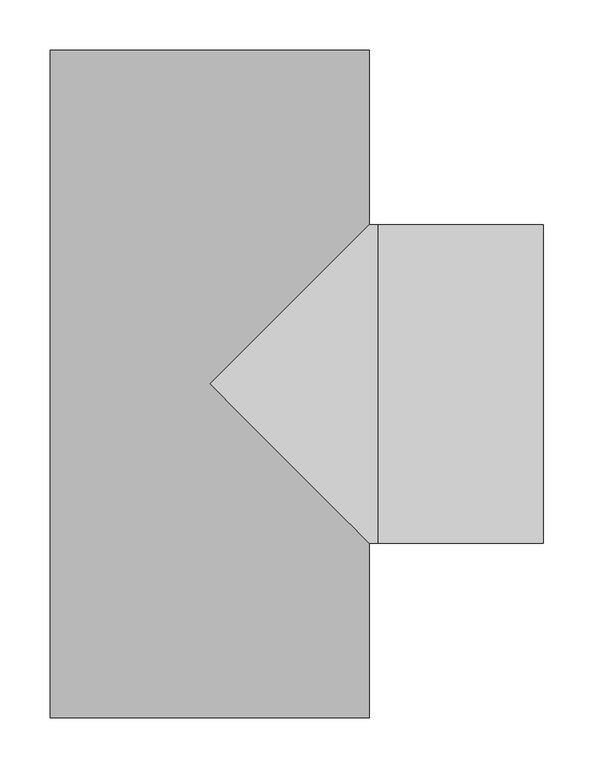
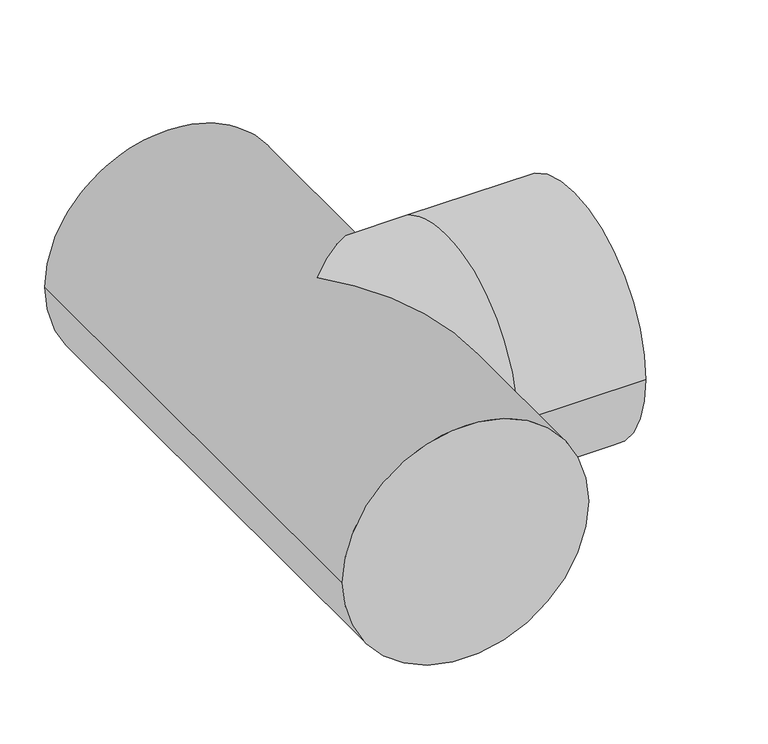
"""IFC4 building model written with IfcOpenShell, lengths in millimetres: pipe fitting geometry, 01051003 : Tés à 90º."""

from ifc_helpers import new_model, si_unit, frame, origin, place, context, project, spatial, circle_curve, ellipse_curve, source, transform, mapped, element, save
from ifc_brep_helpers import plane_surface, cylinder_surface, advanced_brep


def pipe_fitting_eb1a5258(model_context):
    return source(origin(), model_context, "Body", "AdvancedBrep", [
        advanced_brep(
        [(-158.65, 332.0, 0.0), (158.65, 332.0, 0.0), (-158.65, -332.0, 0.0), (158.65, -332.0, 0.0), (158.65, -158.65, 0.0), (0.0, 0.0, 158.65), (158.65, 158.65, 0.0), (0.0, 0.0, -158.65), (332.0, 158.65, 0.0), (332.0, -158.65, 0.0), (167.0, -158.65, 0.0), (167.0, 158.65, 0.0)],
        [
            (0, 1, circle_curve(frame((0.0, 332.0, 0.0), z_axis=(0.0, 1.0, 0.0), x_axis=(1.0, 0.0, 0.0)), 158.65)),
            (1, 0, circle_curve(frame((0.0, 332.0, 0.0), z_axis=(0.0, 1.0, 0.0), x_axis=(1.0, 0.0, 0.0)), 158.65)),
            (2, 3, circle_curve(frame((0.0, -332.0, 0.0), z_axis=(0.0, -1.0, 0.0), x_axis=(1.0, 0.0, 0.0)), 158.65)),
            (3, 2, circle_curve(frame((0.0, -332.0, 0.0), z_axis=(0.0, -1.0, 0.0), x_axis=(1.0, 0.0, 0.0)), 158.65)),
            (0, 2),
            (3, 4),
            (4, 5, ellipse_curve(frame((0.0, 0.0, 0.0), z_axis=(-0.7071067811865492, -0.7071067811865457, 0.0), x_axis=(-0.7071067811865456, 0.7071067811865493, 0.0)), 224.3649817, 158.65)),
            (5, 6, ellipse_curve(frame((0.0, 0.0, 0.0), z_axis=(-0.7071067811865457, 0.7071067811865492, 0.0), x_axis=(0.7071067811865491, 0.7071067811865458, 0.0)), 224.3649817, 158.65)),
            (6, 1),
            (6, 7, ellipse_curve(frame((0.0, 0.0, 0.0), z_axis=(-0.7071067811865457, 0.7071067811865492, 0.0), x_axis=(0.7071067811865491, 0.7071067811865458, 0.0)), 224.3649817, 158.65)),
            (7, 4, ellipse_curve(frame((0.0, 0.0, 0.0), z_axis=(-0.7071067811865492, -0.7071067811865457, 0.0), x_axis=(-0.7071067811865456, 0.7071067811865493, 0.0)), 224.3649817, 158.65)),
            (8, 9, circle_curve(frame((332.0, 0.0, 0.0), z_axis=(1.0, 0.0, 0.0), x_axis=(0.0, -1.0, 0.0)), 158.65)),
            (9, 8, circle_curve(frame((332.0, 0.0, 0.0), z_axis=(1.0, 0.0, 0.0), x_axis=(0.0, -1.0, 0.0)), 158.65)),
            (10, 11, circle_curve(frame((167.0, 0.0, 0.0), z_axis=(-1.0, 0.0, 0.0), x_axis=(0.0, -1.0, 0.0)), 158.65)),
            (11, 6),
            (4, 10),
            (11, 10, circle_curve(frame((167.0, 0.0, 0.0), z_axis=(-1.0, 0.0, 0.0), x_axis=(0.0, -1.0, 0.0)), 158.65)),
            (8, 11),
            (10, 9),
        ],
        [
            plane_surface(frame((0.0, 332.0, 0.0), z_axis=(0.0, 1.0, 0.0), x_axis=(0.0, 0.0, 1.0))),
            plane_surface(frame((0.0, -332.0, 0.0), z_axis=(0.0, -1.0, 0.0), x_axis=(0.0, 0.0, 1.0))),
            cylinder_surface(frame((0.0, 332.0, 0.0), z_axis=(0.0, 1.0, 0.0), x_axis=(1.0, 0.0, 0.0)), 158.65),
            plane_surface(frame((332.0, 0.0, 0.0), z_axis=(1.0, 0.0, 0.0), x_axis=(0.0, 0.0, 1.0))),
            cylinder_surface(frame((167.0, 0.0, 0.0), z_axis=(1.0, 0.0, 0.0), x_axis=(0.0, -1.0, 0.0)), 158.65),
            cylinder_surface(frame((332.0, 0.0, 0.0), z_axis=(1.0, 0.0, 0.0), x_axis=(0.0, -1.0, 0.0)), 158.65),
        ],
        [
            (0, [[1, 2]]),
            (1, [[3, 4]]),
            (2, [[-1, 5, -4, 6, 7, 8, 9]]),
            (2, [[-2, -9, 10, 11, -6, -3, -5]]),
            (3, [[12, 13]]),
            (4, [[14, 15, -8, -7, 16]]),
            (4, [[17, -16, -11, -10, -15]]),
            (5, [[-12, 18, -14, 19]]),
            (5, [[-13, -19, -17, -18]]),
        ],
    ),
    ])


if __name__ == "__main__":
    model = new_model("IFC4")
    model_context = context("Model", 3, world=origin())
    ifc_project = project(units=[si_unit("LENGTHUNIT", "METRE", prefix="MILLI")], contexts=[model_context])
    site = spatial("IfcSite", under=ifc_project)
    building = spatial("IfcBuilding", under=site)
    placement = place(None, origin())
    pipe_fitting_shape = pipe_fitting_eb1a5258(model_context)
    element("IfcPipeFitting", 1, ObjectType="01051003 : Tés à 90º", at=placement, inside=building, context=model_context, shape_type="MappedRepresentation", body=[
        mapped(pipe_fitting_shape, transform((0.0, 0.0, 0.0), x_axis=(1.0, 0.0, 0.0), y_axis=(0.0, 1.0, 0.0), z_axis=(0.0, 0.0, 1.0))),
    ])
    save(model, "model.ifc")
